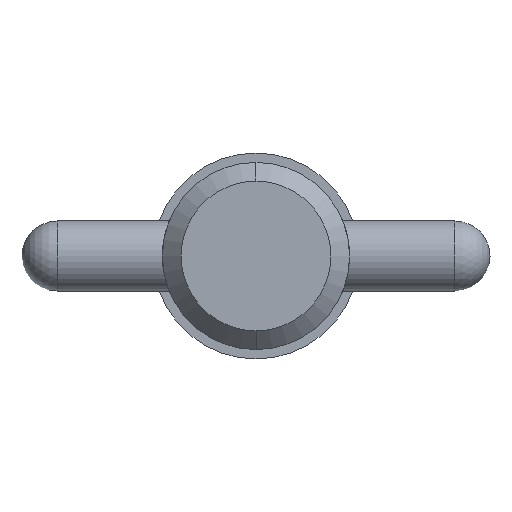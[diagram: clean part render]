
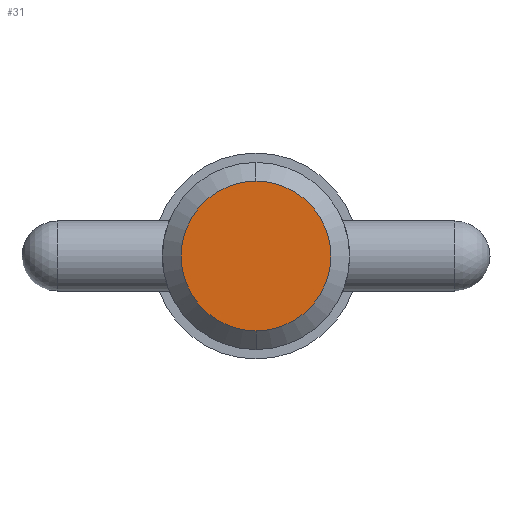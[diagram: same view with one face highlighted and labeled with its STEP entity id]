
A CAD part, left-side view. The second image highlights one B-rep face of the part: STEP entity #31.
In plain terms, the highlighted planar face has unit normal (-1, 0, 0).
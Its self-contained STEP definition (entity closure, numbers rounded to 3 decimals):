
#31 = ADVANCED_FACE ( 'NONE', ( #707 ), #307, .T. ) ;
#108 = DIRECTION ( 'NONE',  ( 1., 0., 0. ) ) ;
#139 = CIRCLE ( 'NONE', #786, 5.08 ) ;
#301 = DIRECTION ( 'NONE',  ( -1., 0., 0. ) ) ;
#307 = PLANE ( 'NONE',  #890 ) ;
#328 = EDGE_CURVE ( 'NONE', #926, #439, #468, .T. ) ;
#367 = CARTESIAN_POINT ( 'NONE',  ( 0., 0., 0. ) ) ;
#371 = EDGE_LOOP ( 'NONE', ( #526, #801 ) ) ;
#426 = DIRECTION ( 'NONE',  ( 0., 0., -1. ) ) ;
#435 = CARTESIAN_POINT ( 'NONE',  ( 0., 0., 0. ) ) ;
#439 = VERTEX_POINT ( 'NONE', #846 ) ;
#468 = CIRCLE ( 'NONE', #1032, 5.08 ) ;
#498 = CARTESIAN_POINT ( 'NONE',  ( 0., 0., 0. ) ) ;
#526 = ORIENTED_EDGE ( 'NONE', *, *, #687, .F. ) ;
#594 = DIRECTION ( 'NONE',  ( 0., 0., -1. ) ) ;
#687 = EDGE_CURVE ( 'NONE', #439, #926, #139, .T. ) ;
#707 = FACE_OUTER_BOUND ( 'NONE', #371, .T. ) ;
#736 = DIRECTION ( 'NONE',  ( 1., 0., 0. ) ) ;
#786 = AXIS2_PLACEMENT_3D ( 'NONE', #498, #736, #594 ) ;
#801 = ORIENTED_EDGE ( 'NONE', *, *, #328, .F. ) ;
#846 = CARTESIAN_POINT ( 'NONE',  ( 0., 0., -5.08 ) ) ;
#851 = CARTESIAN_POINT ( 'NONE',  ( 0., 0., 5.08 ) ) ;
#890 = AXIS2_PLACEMENT_3D ( 'NONE', #367, #301, #948 ) ;
#926 = VERTEX_POINT ( 'NONE', #851 ) ;
#948 = DIRECTION ( 'NONE',  ( 0., 0., 1. ) ) ;
#1032 = AXIS2_PLACEMENT_3D ( 'NONE', #435, #108, #426 ) ;
